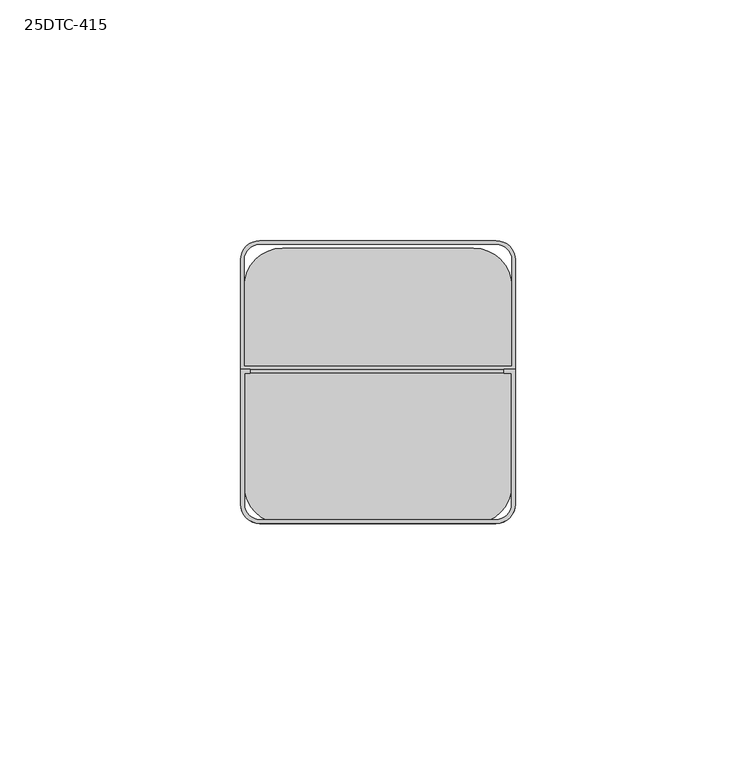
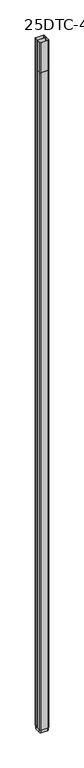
"""IFC4 building model written with IfcOpenShell, lengths in millimetres: proxy geometry, Vertical_Drop_Poles-Wiremold-Blank_Steel_Pole : 25DTC-415."""

from ifc_helpers import new_model, si_unit, point, frame, frame_2d, origin, origin_with_axes, place, context, project, spatial, polyline, circle_curve, trimmed, segment, composite_curve, outline, extrude, source, transform, mapped, element, save


def proxy_25dtc_415_903e48b8(model_context):
    return source(origin(), model_context, "Body", "SweptSolid", [
        extrude(outline(composite_curve([segment(polyline([(28.575, 31.25), (28.575, 3.25)]), True, "CONTINUOUS"), segment(trimmed(circle_curve(frame_2d((24.575, 3.25)), 4.0), [point((28.575, 3.25))], [point((24.575, -0.75))], False, "CARTESIAN"), True, "CONTINUOUS"), segment(polyline([(24.575, -0.75), (-24.575, -0.75)]), True, "CONTINUOUS"), segment(trimmed(circle_curve(frame_2d((-24.575, 3.25)), 4.0), [point((-24.575, -0.75))], [point((-28.575, 3.25))], False, "CARTESIAN"), True, "CONTINUOUS"), segment(polyline([(-28.575, 3.25), (-28.575, 31.25), (-26.5875, 31.25), (-26.5875, 30.45), (-27.775, 30.45), (-27.775, 3.25)]), True, "CONTINUOUS"), segment(trimmed(circle_curve(frame_2d((-24.575, 3.25)), 3.2), [point((-27.775, 3.25))], [point((-24.575, 0.05))], True, "CARTESIAN"), True, "CONTINUOUS"), segment(polyline([(-24.575, 0.05), (24.575, 0.05)]), True, "CONTINUOUS"), segment(trimmed(circle_curve(frame_2d((24.575, 3.25)), 3.2), [point((24.575, 0.05))], [point((27.775, 3.25))], True, "CARTESIAN"), True, "CONTINUOUS"), segment(polyline([(27.775, 3.25), (27.775, 30.45), (26.1875, 30.45), (26.1875, 31.25), (28.575, 31.25)]), True, "CONTINUOUS")], self_intersect=False)), frame((0.0, 0.0, 4495.8), z_axis=(0.0, 0.0, 1.0), x_axis=(1.0, 0.0, 0.0)), (0.0, 0.0, 1.0), 203.2),
        extrude(outline(composite_curve([segment(trimmed(circle_curve(frame_2d((19.825, 49.2375)), 8.0), [point((19.825, 57.2375))], [point((27.825, 49.2375))], False, "CARTESIAN"), True, "CONTINUOUS"), segment(polyline([(27.825, 49.2375), (27.825, 8.0)]), True, "CONTINUOUS"), segment(trimmed(circle_curve(frame_2d((19.825, 8.0)), 8.0), [point((27.825, 8.0))], [point((19.825, 0.0))], False, "CARTESIAN"), True, "CONTINUOUS"), segment(polyline([(19.825, 0.0), (-19.825, 0.0)]), True, "CONTINUOUS"), segment(trimmed(circle_curve(frame_2d((-19.825, 8.0)), 8.0), [point((-19.825, 0.0))], [point((-27.825, 8.0))], False, "CARTESIAN"), True, "CONTINUOUS"), segment(polyline([(-27.825, 8.0), (-27.825, 49.2375)]), True, "CONTINUOUS"), segment(trimmed(circle_curve(frame_2d((-19.825, 49.2375)), 8.0), [point((-27.825, 49.2375))], [point((-19.825, 57.2375))], False, "CARTESIAN"), True, "CONTINUOUS"), segment(polyline([(-19.825, 57.2375), (19.825, 57.2375)]), True, "CONTINUOUS")], self_intersect=False)), frame((0.0, 0.0, -19.0), z_axis=(0.0, 0.0, 1.0), x_axis=(1.0, 0.0, 0.0)), (0.0, 0.0, 1.0), 19.0),
        extrude(outline(composite_curve([segment(trimmed(circle_curve(frame_2d((24.575, 53.9875)), 4.0), [point((24.575, 57.9875))], [point((28.575, 53.9875))], False, "CARTESIAN"), True, "CONTINUOUS"), segment(polyline([(28.575, 53.9875), (28.575, 31.25), (-28.575, 31.25), (-28.575, 53.9875)]), True, "CONTINUOUS"), segment(trimmed(circle_curve(frame_2d((-24.575, 53.9875)), 4.0), [point((-28.575, 53.9875))], [point((-24.575, 57.9875))], False, "CARTESIAN"), True, "CONTINUOUS"), segment(polyline([(-24.575, 57.9875), (24.575, 57.9875)]), True, "CONTINUOUS")], self_intersect=False), holes=[composite_curve([segment(polyline([(27.775, 32.05), (27.775, 53.9875)]), True, "CONTINUOUS"), segment(trimmed(circle_curve(frame_2d((24.575, 53.9875)), 3.2), [point((27.775, 53.9875))], [point((24.575, 57.1875))], True, "CARTESIAN"), True, "CONTINUOUS"), segment(polyline([(24.575, 57.1875), (-24.575, 57.1875)]), True, "CONTINUOUS"), segment(trimmed(circle_curve(frame_2d((-24.575, 53.9875)), 3.2), [point((-24.575, 57.1875))], [point((-27.775, 53.9875))], True, "CARTESIAN"), True, "CONTINUOUS"), segment(polyline([(-27.775, 53.9875), (-27.775, 32.05), (27.775, 32.05)]), True, "CONTINUOUS")], self_intersect=False)]), origin_with_axes(), (0.0, 0.0, 1.0), 4699.0),
        extrude(outline(composite_curve([segment(polyline([(28.575, 31.25), (28.575, 3.25)]), True, "CONTINUOUS"), segment(trimmed(circle_curve(frame_2d((24.575, 3.25)), 4.0), [point((28.575, 3.25))], [point((24.575, -0.75))], False, "CARTESIAN"), True, "CONTINUOUS"), segment(polyline([(24.575, -0.75), (-24.575, -0.75)]), True, "CONTINUOUS"), segment(trimmed(circle_curve(frame_2d((-24.575, 3.25)), 4.0), [point((-24.575, -0.75))], [point((-28.575, 3.25))], False, "CARTESIAN"), True, "CONTINUOUS"), segment(polyline([(-28.575, 3.25), (-28.575, 31.25), (28.575, 31.25)]), True, "CONTINUOUS")], self_intersect=False), holes=[composite_curve([segment(polyline([(-27.775, 30.45), (-27.775, 3.25)]), True, "CONTINUOUS"), segment(trimmed(circle_curve(frame_2d((-24.575, 3.25)), 3.2), [point((-27.775, 3.25))], [point((-24.575, 0.05))], True, "CARTESIAN"), True, "CONTINUOUS"), segment(polyline([(-24.575, 0.05), (24.575, 0.05)]), True, "CONTINUOUS"), segment(trimmed(circle_curve(frame_2d((24.575, 3.25)), 3.2), [point((24.575, 0.05))], [point((27.775, 3.25))], True, "CARTESIAN"), True, "CONTINUOUS"), segment(polyline([(27.775, 3.25), (27.775, 30.45), (-27.775, 30.45)]), True, "CONTINUOUS")], self_intersect=False)]), origin_with_axes(), (0.0, 0.0, 1.0), 4495.8),
    ])


if __name__ == "__main__":
    model = new_model("IFC4")
    model_context = context("Model", 3, world=origin())
    ifc_project = project(units=[si_unit("LENGTHUNIT", "METRE", prefix="MILLI")], contexts=[model_context])
    site = spatial("IfcSite", under=ifc_project)
    building = spatial("IfcBuilding", under=site)
    placement = place(None, origin())
    proxy_25dtc_415_shape = proxy_25dtc_415_903e48b8(model_context)
    element("IfcBuildingElementProxy", 1, Name="Vertical_Drop_Poles-Wiremold-Blank_Steel_Pole : 25DTC-415", ObjectType="Vertical_Drop_Poles-Wiremold-Blank_Steel_Pole : 25DTC-415", at=placement, inside=building, context=model_context, shape_type="MappedRepresentation", body=[
        mapped(proxy_25dtc_415_shape, transform((0.0, 0.0, 0.0), x_axis=(1.0, 0.0, 0.0), y_axis=(0.0, 1.0, 0.0), z_axis=(0.0, 0.0, 1.0))),
    ])
    save(model, "model.ifc")
